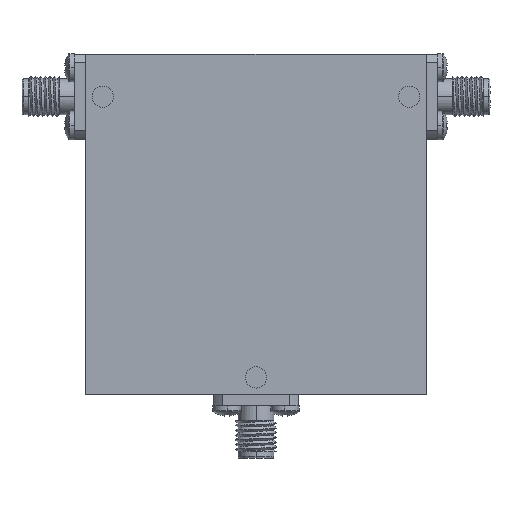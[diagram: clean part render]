
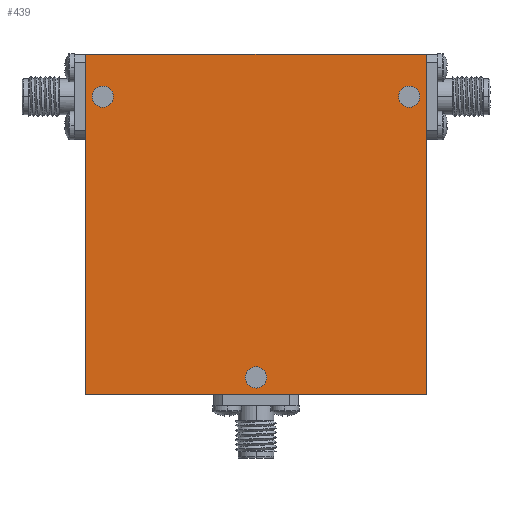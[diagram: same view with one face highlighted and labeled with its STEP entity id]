
A CAD part, top view. The second image highlights one B-rep face of the part: STEP entity #439.
In plain terms, the highlighted planar face has unit normal (0, 0, 1) as drawn and (0, 0, -1) by its records, which use the part's own axes.
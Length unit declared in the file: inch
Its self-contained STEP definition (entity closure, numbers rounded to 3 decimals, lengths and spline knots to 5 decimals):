
#21 = VERTEX_POINT ( 'NONE', #1131 ) ;
#54 = EDGE_CURVE ( 'NONE', #1000, #2993, #648, .T. ) ;
#117 = VECTOR ( 'NONE', #3029, 39.37008 ) ;
#128 = DIRECTION ( 'NONE',  ( 1., 0., 0. ) ) ;
#154 = CARTESIAN_POINT ( 'NONE',  ( -0.75, 1.25, -0.35 ) ) ;
#193 = DIRECTION ( 'NONE',  ( -1., 0., 0. ) ) ;
#227 = CARTESIAN_POINT ( 'NONE',  ( 1.25, -0.75, -0.35 ) ) ;
#235 = FACE_BOUND ( 'NONE', #1196, .T. ) ;
#238 = ORIENTED_EDGE ( 'NONE', *, *, #54, .T. ) ;
#256 = CARTESIAN_POINT ( 'NONE',  ( 1.15, 1., -0.35 ) ) ;
#310 = EDGE_CURVE ( 'NONE', #21, #2706, #1200, .T. ) ;
#312 = CIRCLE ( 'NONE', #1615, 0.0625 ) ;
#384 = VERTEX_POINT ( 'NONE', #1392 ) ;
#422 = ORIENTED_EDGE ( 'NONE', *, *, #2159, .T. ) ;
#439 = ADVANCED_FACE ( 'NONE', ( #3071, #2709, #235, #561 ), #2855, .F. ) ;
#456 = DIRECTION ( 'NONE',  ( 1., 0., 0. ) ) ;
#561 = FACE_OUTER_BOUND ( 'NONE', #3550, .T. ) ;
#603 = EDGE_CURVE ( 'NONE', #2241, #3066, #312, .T. ) ;
#648 = CIRCLE ( 'NONE', #1002, 0.0625 ) ;
#806 = EDGE_CURVE ( 'NONE', #384, #2813, #3341, .T. ) ;
#811 = CARTESIAN_POINT ( 'NONE',  ( 0.1875, -0.65, -0.35 ) ) ;
#829 = DIRECTION ( 'NONE',  ( 1., 0., 0. ) ) ;
#846 = VERTEX_POINT ( 'NONE', #2222 ) ;
#899 = ORIENTED_EDGE ( 'NONE', *, *, #926, .F. ) ;
#924 = DIRECTION ( 'NONE',  ( 0., 0., 1. ) ) ;
#926 = EDGE_CURVE ( 'NONE', #846, #384, #3609, .T. ) ;
#974 = CARTESIAN_POINT ( 'NONE',  ( 1.0875, 1., -0.35 ) ) ;
#1000 = VERTEX_POINT ( 'NONE', #3107 ) ;
#1002 = AXIS2_PLACEMENT_3D ( 'NONE', #256, #1989, #829 ) ;
#1013 = CARTESIAN_POINT ( 'NONE',  ( -0.5875, 1., -0.35 ) ) ;
#1061 = ORIENTED_EDGE ( 'NONE', *, *, #806, .F. ) ;
#1079 = AXIS2_PLACEMENT_3D ( 'NONE', #3585, #1880, #128 ) ;
#1131 = CARTESIAN_POINT ( 'NONE',  ( 0.3125, -0.65, -0.35 ) ) ;
#1175 = AXIS2_PLACEMENT_3D ( 'NONE', #1293, #1847, #2465 ) ;
#1196 = EDGE_LOOP ( 'NONE', ( #2836, #422 ) ) ;
#1200 = CIRCLE ( 'NONE', #3323, 0.0625 ) ;
#1223 = CARTESIAN_POINT ( 'NONE',  ( -0.65, 1., -0.35 ) ) ;
#1270 = VECTOR ( 'NONE', #193, 39.37008 ) ;
#1293 = CARTESIAN_POINT ( 'NONE',  ( -0.65, 1., -0.35 ) ) ;
#1340 = EDGE_LOOP ( 'NONE', ( #2176, #3461 ) ) ;
#1392 = CARTESIAN_POINT ( 'NONE',  ( -0.75, 1.25, -0.35 ) ) ;
#1428 = EDGE_LOOP ( 'NONE', ( #238, #2947 ) ) ;
#1511 = LINE ( 'NONE', #2857, #2603 ) ;
#1512 = VECTOR ( 'NONE', #2247, 39.37008 ) ;
#1573 = CARTESIAN_POINT ( 'NONE',  ( 1.25, 1.25, -0.35 ) ) ;
#1615 = AXIS2_PLACEMENT_3D ( 'NONE', #1223, #924, #2399 ) ;
#1654 = DIRECTION ( 'NONE',  ( 1., 0., 0. ) ) ;
#1675 = DIRECTION ( 'NONE',  ( 0., 0., 1. ) ) ;
#1692 = CARTESIAN_POINT ( 'NONE',  ( 0., 0., -0.35 ) ) ;
#1846 = EDGE_CURVE ( 'NONE', #2993, #1000, #2445, .T. ) ;
#1847 = DIRECTION ( 'NONE',  ( 0., 0., 1. ) ) ;
#1850 = ORIENTED_EDGE ( 'NONE', *, *, #3799, .F. ) ;
#1880 = DIRECTION ( 'NONE',  ( 0., 0., 1. ) ) ;
#1987 = LINE ( 'NONE', #1573, #117 ) ;
#1989 = DIRECTION ( 'NONE',  ( 0., 0., 1. ) ) ;
#1998 = CIRCLE ( 'NONE', #1079, 0.0625 ) ;
#2004 = ORIENTED_EDGE ( 'NONE', *, *, #2171, .F. ) ;
#2158 = CARTESIAN_POINT ( 'NONE',  ( 0.25, -0.65, -0.35 ) ) ;
#2159 = EDGE_CURVE ( 'NONE', #3066, #2241, #3190, .T. ) ;
#2171 = EDGE_CURVE ( 'NONE', #3759, #846, #1987, .T. ) ;
#2176 = ORIENTED_EDGE ( 'NONE', *, *, #310, .T. ) ;
#2222 = CARTESIAN_POINT ( 'NONE',  ( 1.25, 1.25, -0.35 ) ) ;
#2241 = VERTEX_POINT ( 'NONE', #1013 ) ;
#2247 = DIRECTION ( 'NONE',  ( 0., -1., 0. ) ) ;
#2275 = CARTESIAN_POINT ( 'NONE',  ( -0.75, 1.25, -0.35 ) ) ;
#2399 = DIRECTION ( 'NONE',  ( 1., 0., 0. ) ) ;
#2445 = CIRCLE ( 'NONE', #3211, 0.0625 ) ;
#2447 = DIRECTION ( 'NONE',  ( 1., 0., 0. ) ) ;
#2460 = DIRECTION ( 'NONE',  ( 0., 0., 1. ) ) ;
#2465 = DIRECTION ( 'NONE',  ( 1., 0., 0. ) ) ;
#2560 = CARTESIAN_POINT ( 'NONE',  ( 1.15, 1., -0.35 ) ) ;
#2603 = VECTOR ( 'NONE', #1654, 39.37008 ) ;
#2706 = VERTEX_POINT ( 'NONE', #811 ) ;
#2709 = FACE_BOUND ( 'NONE', #1340, .T. ) ;
#2813 = VERTEX_POINT ( 'NONE', #2970 ) ;
#2836 = ORIENTED_EDGE ( 'NONE', *, *, #603, .T. ) ;
#2851 = DIRECTION ( 'NONE',  ( 0., 0., 1. ) ) ;
#2855 = PLANE ( 'NONE',  #3179 ) ;
#2857 = CARTESIAN_POINT ( 'NONE',  ( -0.75, -0.75, -0.35 ) ) ;
#2947 = ORIENTED_EDGE ( 'NONE', *, *, #1846, .T. ) ;
#2970 = CARTESIAN_POINT ( 'NONE',  ( -0.75, -0.75, -0.35 ) ) ;
#2993 = VERTEX_POINT ( 'NONE', #974 ) ;
#3029 = DIRECTION ( 'NONE',  ( 0., 1., 0. ) ) ;
#3066 = VERTEX_POINT ( 'NONE', #3308 ) ;
#3071 = FACE_BOUND ( 'NONE', #1428, .T. ) ;
#3107 = CARTESIAN_POINT ( 'NONE',  ( 1.2125, 1., -0.35 ) ) ;
#3127 = DIRECTION ( 'NONE',  ( 1., 0., 0. ) ) ;
#3179 = AXIS2_PLACEMENT_3D ( 'NONE', #1692, #1675, #456 ) ;
#3190 = CIRCLE ( 'NONE', #1175, 0.0625 ) ;
#3211 = AXIS2_PLACEMENT_3D ( 'NONE', #2560, #2851, #3127 ) ;
#3308 = CARTESIAN_POINT ( 'NONE',  ( -0.7125, 1., -0.35 ) ) ;
#3323 = AXIS2_PLACEMENT_3D ( 'NONE', #2158, #2460, #2447 ) ;
#3341 = LINE ( 'NONE', #2275, #1512 ) ;
#3461 = ORIENTED_EDGE ( 'NONE', *, *, #3617, .T. ) ;
#3550 = EDGE_LOOP ( 'NONE', ( #2004, #1850, #1061, #899 ) ) ;
#3585 = CARTESIAN_POINT ( 'NONE',  ( 0.25, -0.65, -0.35 ) ) ;
#3609 = LINE ( 'NONE', #154, #1270 ) ;
#3617 = EDGE_CURVE ( 'NONE', #2706, #21, #1998, .T. ) ;
#3759 = VERTEX_POINT ( 'NONE', #227 ) ;
#3799 = EDGE_CURVE ( 'NONE', #2813, #3759, #1511, .T. ) ;
